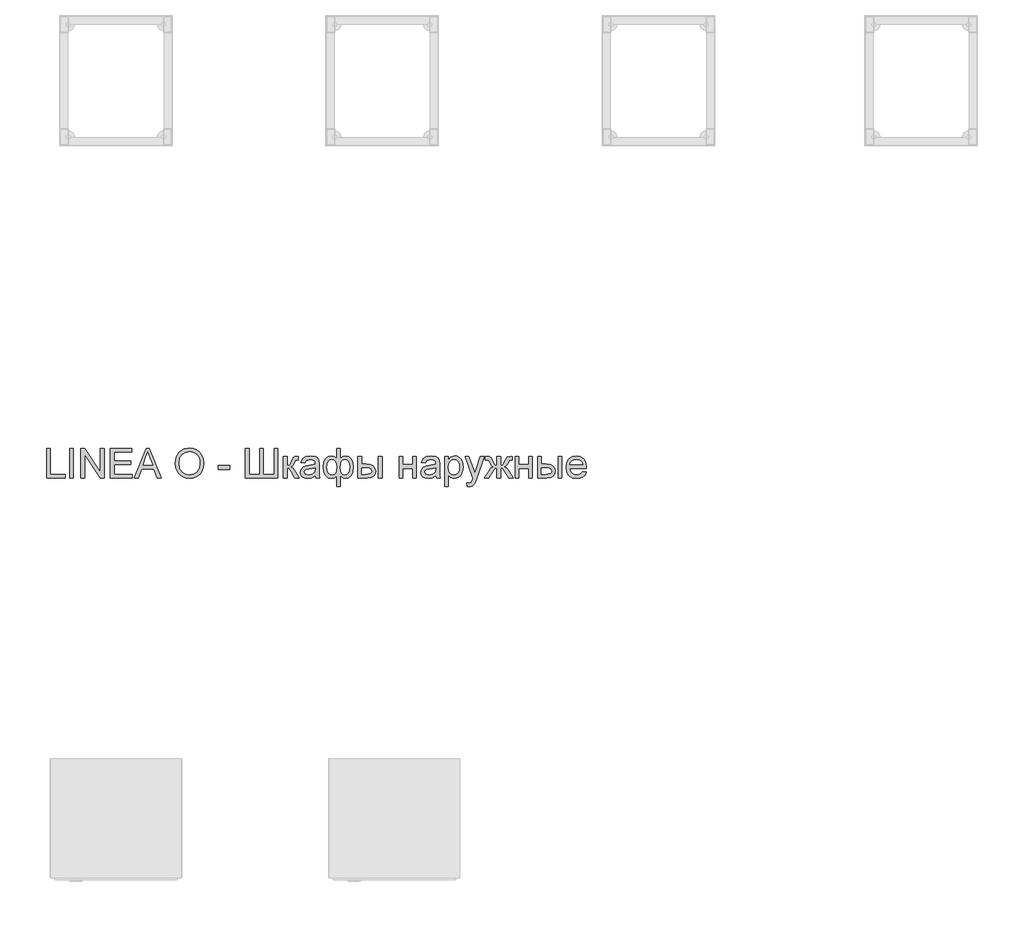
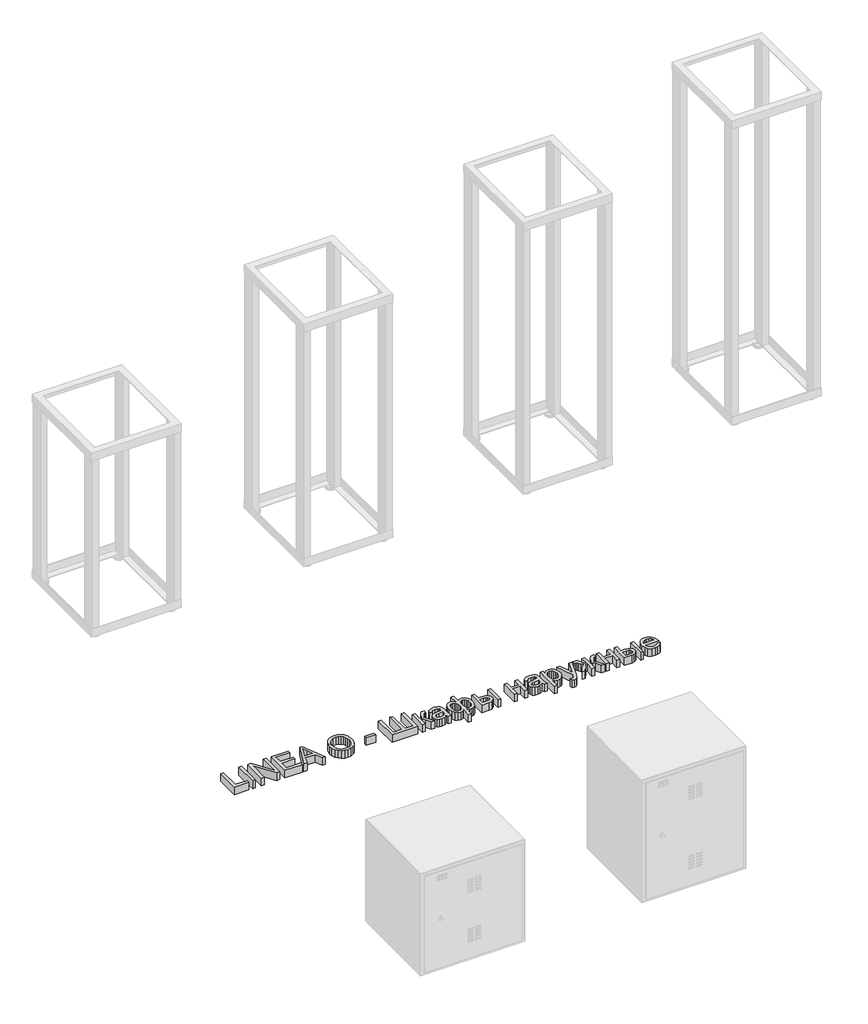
# One storey, part 5 of 9: 1 proxy.
"""IFC4 building model written with IfcOpenShell, lengths in millimetres."""

import ifcopenshell
import ifcopenshell.guid

model = None  # the IFC model being written
_history = None  # IfcOwnerHistory: only IFC2X3 demands one
_inside = {}  # id of a spatial element -> (the spatial element, [elements in it])
_under = {}  # id of a project, library or spatial element -> (it, [spatial elements below it])
_declared = {}  # id of a project -> (the project, [libraries it declares])
_typed = {}  # id of a type object -> (the type object, [elements of that type])
_made_of = {}  # id of a material, layer set ... -> (it, [elements and type objects made of it])


def new_model(schema):
    """Start an empty IFC model of exactly this schema.

    Asked for "IFC4X3", IfcOpenShell would pick the latest addendum, in which some entities
    have other attributes; the version numbers below select the first issue.
    IFC2X3 requires an IfcOwnerHistory on every rooted entity: one is made here for all.
    """
    global model, _history
    if schema == "IFC4X3":
        model = ifcopenshell.file(schema_version=(4, 3, 0, 0))
    else:
        model = ifcopenshell.file(schema=schema)
    _inside.clear()
    _under.clear()
    _declared.clear()
    _typed.clear()
    _made_of.clear()
    _history = None
    if model.schema == "IFC2X3":
        org = make("IfcOrganization", Name="unknown")
        user = make(
            "IfcPersonAndOrganization",
            ThePerson=make("IfcPerson", FamilyName="unknown"),
            TheOrganization=org,
        )
        app = make(
            "IfcApplication",
            ApplicationDeveloper=org,
            Version="unknown",
            ApplicationFullName="unknown",
            ApplicationIdentifier="unknown",
        )
        _history = make(
            "IfcOwnerHistory",
            OwningUser=user,
            OwningApplication=app,
            ChangeAction="ADDED",
            CreationDate=0,
        )
    return model


def make(cls, **values):
    """One entity of the class cls with the attributes given. An attribute that is None is left unset."""
    return model.create_entity(
        cls, **{name: value for name, value in values.items() if value is not None}
    )


def rooted(cls, **values):
    """An entity with a GlobalId (a new one), such as an element, a storey or a relation."""
    return make(cls, GlobalId=ifcopenshell.guid.new(), OwnerHistory=_history, **values)


def si_unit(unit_type, name, prefix=None):
    """IfcSIUnit, for example si_unit("LENGTHUNIT", "METRE", prefix="MILLI")."""
    return make("IfcSIUnit", UnitType=unit_type, Prefix=prefix, Name=name)


def assignment(units):
    """IfcUnitAssignment: the units of a project."""
    return None if units is None else make("IfcUnitAssignment", Units=units)


def point(xyz):
    """IfcCartesianPoint."""
    return None if xyz is None else make("IfcCartesianPoint", Coordinates=xyz)


def direction(xyz):
    """IfcDirection."""
    return None if xyz is None else make("IfcDirection", DirectionRatios=xyz)


def frame(location, z_axis=None, x_axis=None):
    """IfcAxis2Placement3D, a coordinate frame: its origin and axes. An axis left out is left unset."""
    return make(
        "IfcAxis2Placement3D",
        Location=point(location),
        Axis=direction(z_axis),
        RefDirection=direction(x_axis),
    )


def origin():
    """The frame at (0, 0, 0) with its axes left unset."""
    return frame((0.0, 0.0, 0.0))


def origin_with_axes():
    """The frame at (0, 0, 0) with the z axis (0, 0, 1) and the x axis (1, 0, 0) written out."""
    return frame((0.0, 0.0, 0.0), z_axis=(0.0, 0.0, 1.0), x_axis=(1.0, 0.0, 0.0))


def place(relative_to, where):
    """IfcLocalPlacement: puts the frame where relative to a parent placement (None: the world)."""
    return make(
        "IfcLocalPlacement", PlacementRelTo=relative_to, RelativePlacement=where
    )


def context(
    kind, dimensions, precision=None, world=None, true_north=None, identifier=None
):
    """IfcGeometricRepresentationContext, for example the 3D "Model" context."""
    return make(
        "IfcGeometricRepresentationContext",
        ContextIdentifier=identifier,
        ContextType=kind,
        CoordinateSpaceDimension=dimensions,
        Precision=precision,
        WorldCoordinateSystem=world,
        TrueNorth=true_north,
    )


def project(units=None, contexts=None):
    """IfcProject with its units and contexts."""
    return rooted(
        "IfcProject",
        Name="project",
        RepresentationContexts=contexts,
        UnitsInContext=assignment(units),
    )


def spatial(cls, under=None, at=None, **own):
    """A site, building, storey or space (cls), placed at a placement, below another one or the project."""
    s = rooted(cls, ObjectPlacement=at, **own)
    if under is not None:
        _under.setdefault(under.id(), (under, []))[1].append(s)
    return s


def polyline(points):
    """IfcPolyline through the points."""
    return make("IfcPolyline", Points=[point(p) for p in points])


def outline(outer, holes=None, kind="AREA"):
    """IfcArbitraryClosedProfileDef: a profile drawn as a closed curve; with holes, ...WithVoids."""
    if holes is None:
        return make("IfcArbitraryClosedProfileDef", ProfileType=kind, OuterCurve=outer)
    return make(
        "IfcArbitraryProfileDefWithVoids",
        ProfileType=kind,
        OuterCurve=outer,
        InnerCurves=holes,
    )


def extrude(swept, where, along, depth):
    """IfcExtrudedAreaSolid: the profile swept, set in the frame where, extruded along a direction by depth."""
    return make(
        "IfcExtrudedAreaSolid",
        SweptArea=swept,
        Position=where,
        ExtrudedDirection=direction(along),
        Depth=depth,
    )


def shape(context_of_items, identifier, shape_type, items):
    """IfcShapeRepresentation: the items that make up one representation, for example the "Body"."""
    return make(
        "IfcShapeRepresentation",
        ContextOfItems=context_of_items,
        RepresentationIdentifier=identifier,
        RepresentationType=shape_type,
        Items=items,
    )


def made_of(thing, what):
    """Note that an element or type object is made of a material, layer set ...; save() writes the relation."""
    if what is not None:
        _made_of.setdefault(what.id(), (what, []))[1].append(thing)
    return thing


def element(
    cls,
    number,
    at=None,
    inside=None,
    cuts=None,
    type_object=None,
    material=None,
    context=None,
    identifier="Body",
    shape_type=None,
    held_by="IfcProductDefinitionShape",
    body=None,
    shapes=None,
    **own,
):
    """One element of the class cls, such as IfcWall. Its Tag is "e" and its number.

    at: its placement. inside: the storey or other place that contains it. cuts: it is an
    opening in that element (IfcRelVoidsElement). A single representation is given by context,
    identifier, shape_type and body (its items); several are given by shapes. held_by: the class
    of the entity that holds the representations. save() writes the other relations.
    """
    e = rooted(cls, Tag="e%d" % number, ObjectPlacement=at, **own)
    if body is not None:
        shapes = [shape(context, identifier, shape_type, body)]
    if shapes is not None:
        e.Representation = make(held_by, Representations=shapes)
    if inside is not None:
        _inside.setdefault(inside.id(), (inside, []))[1].append(e)
    if cuts is not None:
        rooted(
            "IfcRelVoidsElement", RelatingBuildingElement=cuts, RelatedOpeningElement=e
        )
    if type_object is not None:
        _typed.setdefault(type_object.id(), (type_object, []))[1].append(e)
    return made_of(e, material)


def aggregate(whole, parts):
    """IfcRelAggregates: a whole, such as a stair, and the parts it consists of."""
    return rooted("IfcRelAggregates", RelatingObject=whole, RelatedObjects=parts)


def save(model, path):
    """Write the relations noted so far, then the file.

    IfcRelAggregates (storeys below a building ...), IfcRelContainedInSpatialStructure (elements
    in a storey), IfcRelDefinesByType, IfcRelAssociatesMaterial and IfcRelDeclares: one each for
    every whole, place, type object, material and project.
    """
    for whole, parts in _under.values():
        aggregate(whole, parts)
    for where, things in _inside.values():
        rooted(
            "IfcRelContainedInSpatialStructure",
            RelatedElements=things,
            RelatingStructure=where,
        )
    for kind, things in _typed.values():
        rooted("IfcRelDefinesByType", RelatedObjects=things, RelatingType=kind)
    for what, things in _made_of.values():
        rooted("IfcRelAssociatesMaterial", RelatedObjects=things, RelatingMaterial=what)
    for by, libraries in _declared.values():
        rooted("IfcRelDeclares", RelatingContext=by, RelatedDefinitions=libraries)
    model.write(path)


model = new_model("IFC4")

# Units and contexts
model_context = context("Model", 3, world=origin())
ifc_project = project(units=[si_unit("LENGTHUNIT", "METRE", prefix="MILLI")], contexts=[model_context])

# Site, building, storey
site = spatial("IfcSite", under=ifc_project)
building = spatial("IfcBuilding", under=site)
storey = spatial("IfcBuildingStorey", under=building, Name="Уровень 1", Elevation=0.0)

# Proxy
placement = place(None, origin())
element("IfcBuildingElementProxy", 1, Name="Надпись на модели 1", ObjectType="Надпись на модели 1", at=placement, inside=storey, context=model_context, shape_type="SweptSolid", body=[
    extrude(outline(polyline([(-45321.9839338, -21947.5177415), (-45321.9839338, -21799.8254338), (-45303.5223954, -21799.8254338), (-45303.5223954, -21929.056203), (-45229.6762415, -21929.056203), (-45229.6762415, -21947.5177415), (-45321.9839338, -21947.5177415)])), origin_with_axes(), (0.0, 0.0, 1.0), 50.0),
    extrude(outline(polyline([(-45206.5993185, -21947.5177415), (-45206.5993185, -21799.8254338), (-45188.13778, -21799.8254338), (-45188.13778, -21947.5177415), (-45206.5993185, -21947.5177415)])), origin_with_axes(), (0.0, 0.0, 1.0), 50.0),
    extrude(outline(polyline([(-45151.2147031, -21947.5177415), (-45151.2147031, -21799.8254338), (-45131.4550877, -21799.8254338), (-45054.2916262, -21916.8326453), (-45054.2916262, -21799.8254338), (-45035.8300877, -21799.8254338), (-45035.8300877, -21947.5177415), (-45055.5897031, -21947.5177415), (-45132.7531646, -21830.4744723), (-45132.7531646, -21947.5177415), (-45151.2147031, -21947.5177415)])), origin_with_axes(), (0.0, 0.0, 1.0), 50.0),
    extrude(outline(polyline([(-45003.5223954, -21947.5177415), (-45003.5223954, -21799.8254338), (-44897.3685492, -21799.8254338), (-44897.3685492, -21818.2869723), (-44985.0608569, -21818.2869723), (-44985.0608569, -21862.1331261), (-44901.9839338, -21862.1331261), (-44901.9839338, -21880.5946646), (-44985.0608569, -21880.5946646), (-44985.0608569, -21929.056203), (-44895.0608569, -21929.056203), (-44895.0608569, -21947.5177415), (-45003.5223954, -21947.5177415)])), origin_with_axes(), (0.0, 0.0, 1.0), 50.0),
    extrude(outline(polyline([(-44884.5680685, -21947.5177415), (-44825.6137415, -21799.8254338), (-44809.8925877, -21799.8254338), (-44750.9382608, -21947.5177415), (-44770.4454723, -21947.5177415), (-44787.35653, -21901.3638953), (-44848.1858569, -21901.3638953), (-44865.0608569, -21947.5177415), (-44884.5680685, -21947.5177415)]), holes=[polyline([(-44841.4070108, -21882.9023569), (-44794.0993185, -21882.9023569), (-44807.4046069, -21846.5922607), (-44817.7531646, -21818.2869723), (-44826.9478762, -21843.4191838), (-44841.4070108, -21882.9023569)])]), origin_with_axes(), (0.0, 0.0, 1.0), 50.0),
    extrude(outline(polyline([(-44680.4454723, -21875.618703), (-44675.5235973, -21842.9594482), (-44660.7579723, -21818.2509146), (-44638.2129002, -21802.7010348), (-44609.9526838, -21797.5177415), (-44590.5806887, -21799.9516357), (-44573.2098954, -21807.2533184), (-44558.7868185, -21818.9089675), (-44548.2579723, -21834.4047607), (-44541.8216742, -21852.9925011), (-44539.6762415, -21873.9239915), (-44541.9343545, -21895.134929), (-44548.7086935, -21913.9840877), (-44559.6251598, -21929.5069242), (-44574.309655, -21940.7388953), (-44591.5317103, -21947.5537992), (-44610.0608569, -21949.8254338), (-44629.7303281, -21947.314917), (-44647.20028, -21939.7833665), (-44661.5872992, -21927.9113713), (-44672.0079723, -21912.3795203), (-44678.3360973, -21894.5084266), (-44680.4454723, -21875.618703)]), holes=[polyline([(-44661.9839338, -21875.7989915), (-44658.2925276, -21898.9029578), (-44647.2183088, -21916.5081261), (-44630.5731766, -21927.649953), (-44610.16903, -21931.3638953), (-44589.4674074, -21927.6138953), (-44572.7952319, -21916.3638953), (-44561.802143, -21898.2178617), (-44558.13778, -21873.7797607), (-44559.7062896, -21857.4366117), (-44564.4118185, -21843.3110107), (-44572.1326718, -21831.7590276), (-44582.747155, -21823.1367319), (-44595.552143, -21817.7686429), (-44609.8445108, -21815.97928), (-44629.7032848, -21819.4272968), (-44646.5872992, -21829.7713473), (-44658.1347752, -21848.174292), (-44661.9839338, -21875.7989915)])]), origin_with_axes(), (0.0, 0.0, 1.0), 50.0),
    extrude(outline(polyline([(-44468.13778, -21903.6715877), (-44468.13778, -21885.2100492), (-44410.4454723, -21885.2100492), (-44410.4454723, -21903.6715877), (-44468.13778, -21903.6715877)])), origin_with_axes(), (0.0, 0.0, 1.0), 50.0),
    extrude(outline(polyline([(-44331.9839338, -21799.8254338), (-44313.5223954, -21799.8254338), (-44313.5223954, -21929.056203), (-44260.4454723, -21929.056203), (-44260.4454723, -21799.8254338), (-44241.9839338, -21799.8254338), (-44241.9839338, -21929.056203), (-44188.9070108, -21929.056203), (-44188.9070108, -21799.8254338), (-44170.4454723, -21799.8254338), (-44170.4454723, -21947.5177415), (-44331.9839338, -21947.5177415), (-44331.9839338, -21799.8254338)])), origin_with_axes(), (0.0, 0.0, 1.0), 50.0),
    extrude(outline(polyline([(-44142.7531646, -21839.056203), (-44124.2916262, -21839.056203), (-44124.2916262, -21885.2100492), (-44111.9238377, -21881.8927415), (-44101.7916262, -21862.5658184), (-44093.372155, -21845.8891357), (-44085.9442704, -21840.462453), (-44072.4406646, -21839.056203), (-44068.9070108, -21839.056203), (-44068.9070108, -21857.6259146), (-44073.8829723, -21857.5177415), (-44082.8973954, -21859.4648569), (-44089.2435492, -21871.6162992), (-44096.6894627, -21884.759328), (-44107.1281646, -21891.1956261), (-44095.48153, -21898.3801213), (-44084.0512415, -21913.5153377), (-44064.2916262, -21947.5177415), (-44085.2772031, -21947.5177415), (-44104.6401838, -21914.2364915), (-44114.3757608, -21900.1559627), (-44124.2916262, -21896.7485107), (-44124.2916262, -21947.5177415), (-44142.7531646, -21947.5177415), (-44142.7531646, -21839.056203)])), origin_with_axes(), (0.0, 0.0, 1.0), 50.0),
    extrude(outline(polyline([(-43983.5223954, -21933.6715877), (-44001.4250396, -21946.1836069), (-44021.2026838, -21949.8254338), (-44036.6308689, -21947.634929), (-44048.0115781, -21941.0634146), (-44055.0293064, -21931.0844482), (-44057.3685492, -21918.6715877), (-44053.8348954, -21904.0682223), (-44044.5500396, -21893.4672607), (-44031.6233569, -21887.4095684), (-44015.6497992, -21884.6331261), (-43983.6305685, -21878.2869723), (-43983.5223954, -21874.1763953), (-43984.793429, -21865.9372127), (-43988.60653, -21860.5465877), (-43997.1341742, -21856.5441838), (-44009.0151838, -21855.2100492), (-44027.6930685, -21858.7617319), (-44036.5993185, -21871.3638953), (-44055.0608569, -21869.056203), (-44047.0740781, -21851.0273569), (-44030.9923473, -21840.462453), (-44006.6353762, -21836.7485107), (-43984.2615781, -21840.0297607), (-43971.6233569, -21848.2689434), (-43965.9622992, -21860.7989915), (-43965.0608569, -21876.9528377), (-43965.0608569, -21899.9215877), (-43964.1233569, -21931.994905), (-43960.4454723, -21947.5177415), (-43978.9070108, -21947.5177415), (-43983.5223954, -21933.6715877)]), holes=[polyline([(-43983.5223954, -21896.7485107), (-44013.3060492, -21902.4095684), (-44029.1894627, -21905.4023569), (-44036.3829723, -21910.2701453), (-44038.9070108, -21917.3735107), (-44033.4082127, -21927.3614915), (-44017.2723954, -21931.3638953), (-43998.5945108, -21926.946828), (-43986.5512415, -21916.2557223), (-43983.6305685, -21901.9768761), (-43983.5223954, -21896.7485107)])]), origin_with_axes(), (0.0, 0.0, 1.0), 50.0),
    extrude(outline(polyline([(-43877.3685492, -21799.8254338), (-43858.9070108, -21799.8254338), (-43858.9070108, -21849.4768761), (-43847.1702319, -21839.9035588), (-43833.4142223, -21836.7485107), (-43817.2558689, -21840.759929), (-43804.8385012, -21852.7941838), (-43796.9283449, -21870.9131742), (-43794.2916262, -21893.1787992), (-43797.1311694, -21916.1250131), (-43805.6497992, -21934.1944242), (-43818.387179, -21945.9176814), (-43833.8829723, -21949.8254338), (-43845.16903, -21948.0225492), (-43858.9070108, -21938.1787992), (-43858.9070108, -21989.056203), (-43877.3685492, -21989.056203), (-43877.3685492, -21938.1787992), (-43889.1594146, -21946.9047607), (-43903.1137415, -21949.8254338), (-43918.5824915, -21946.0934627), (-43931.9598954, -21934.8975492), (-43941.2086935, -21916.7515155), (-43944.2916262, -21892.1691838), (-43941.5016622, -21870.525554), (-43933.1317704, -21852.6860107), (-43920.0473353, -21840.7328857), (-43903.1137415, -21836.7485107), (-43888.8168665, -21839.9035588), (-43877.3685492, -21849.4768761), (-43877.3685492, -21799.8254338)]), holes=[polyline([(-43859.0151838, -21893.6114915), (-43857.4782247, -21912.3028977), (-43852.8673473, -21923.665578), (-43845.9397632, -21929.439316), (-43837.4526838, -21931.3638953), (-43827.9650036, -21928.9976093), (-43819.9827319, -21921.8987511), (-43814.5605564, -21909.814917), (-43812.7531646, -21892.493703), (-43814.4208329, -21876.0694242), (-43819.4238377, -21864.4408184), (-43827.0410252, -21857.5177415), (-43836.5512415, -21855.2100492), (-43846.3454122, -21857.6123929), (-43853.372155, -21864.8194242), (-43857.6044266, -21876.8221285), (-43859.0151838, -21893.6114915)]), polyline([(-43925.8300877, -21891.7725492), (-43923.982131, -21909.8825252), (-43918.4382608, -21922.0970684), (-43910.154006, -21929.0471886), (-43900.0848954, -21931.3638953), (-43890.0653641, -21929.0607102), (-43882.9394627, -21922.151155), (-43878.6801478, -21910.6352295), (-43877.2603762, -21894.5129338), (-43878.7522632, -21877.3179218), (-43883.2279242, -21865.0357703), (-43890.7144026, -21857.6664795), (-43901.2387415, -21855.2100492), (-43911.1185492, -21857.6078857), (-43918.9791262, -21864.8013953), (-43924.1173473, -21876.3398569), (-43925.8300877, -21891.7725492)])]), origin_with_axes(), (0.0, 0.0, 1.0), 50.0),
    extrude(outline(polyline([(-43669.6762415, -21839.056203), (-43651.2147031, -21839.056203), (-43651.2147031, -21947.5177415), (-43669.6762415, -21947.5177415), (-43669.6762415, -21839.056203)])), origin_with_axes(), (0.0, 0.0, 1.0), 50.0),
    extrude(outline(polyline([(-43771.2147031, -21839.056203), (-43752.7531646, -21839.056203), (-43752.7531646, -21878.2869723), (-43729.9286454, -21878.2869723), (-43710.2005805, -21880.5991718), (-43695.5836935, -21887.5357703), (-43686.5377199, -21898.5378737), (-43683.5223954, -21913.0465877), (-43686.0509411, -21926.2572247), (-43693.6365781, -21937.4035588), (-43706.7750997, -21944.9891958), (-43725.9622992, -21947.5177415), (-43771.2147031, -21947.5177415), (-43771.2147031, -21839.056203)]), holes=[polyline([(-43752.7531646, -21929.056203), (-43733.7868185, -21929.056203), (-43709.3036454, -21925.1800011), (-43703.8138617, -21920.2175612), (-43701.9839338, -21913.0826453), (-43707.4106165, -21901.7244723), (-43716.114042, -21897.9925011), (-43731.3709531, -21896.7485107), (-43752.7531646, -21896.7485107), (-43752.7531646, -21929.056203)])]), origin_with_axes(), (0.0, 0.0, 1.0), 50.0),
    extrude(outline(polyline([(-43565.8300877, -21839.056203), (-43547.3685492, -21839.056203), (-43547.3685492, -21880.5946646), (-43498.9070108, -21880.5946646), (-43498.9070108, -21839.056203), (-43480.4454723, -21839.056203), (-43480.4454723, -21947.5177415), (-43498.9070108, -21947.5177415), (-43498.9070108, -21899.056203), (-43547.3685492, -21899.056203), (-43547.3685492, -21947.5177415), (-43565.8300877, -21947.5177415), (-43565.8300877, -21839.056203)])), origin_with_axes(), (0.0, 0.0, 1.0), 50.0),
    extrude(outline(polyline([(-43383.5223954, -21933.6715877), (-43401.4250396, -21946.1836069), (-43421.2026838, -21949.8254338), (-43436.6308689, -21947.634929), (-43448.0115781, -21941.0634146), (-43455.0293064, -21931.0844482), (-43457.3685492, -21918.6715877), (-43453.8348954, -21904.0682223), (-43444.5500396, -21893.4672607), (-43431.6233569, -21887.4095684), (-43415.6497992, -21884.6331261), (-43383.6305685, -21878.2869723), (-43383.5223954, -21874.1763953), (-43384.793429, -21865.9372127), (-43388.60653, -21860.5465877), (-43397.1341742, -21856.5441838), (-43409.0151838, -21855.2100492), (-43427.6930685, -21858.7617319), (-43436.5993185, -21871.3638953), (-43455.0608569, -21869.056203), (-43447.0740781, -21851.0273569), (-43430.9923473, -21840.462453), (-43406.6353762, -21836.7485107), (-43384.2615781, -21840.0297607), (-43371.6233569, -21848.2689434), (-43365.9622992, -21860.7989915), (-43365.0608569, -21876.9528377), (-43365.0608569, -21899.9215877), (-43364.1233569, -21931.994905), (-43360.4454723, -21947.5177415), (-43378.9070108, -21947.5177415), (-43383.5223954, -21933.6715877)]), holes=[polyline([(-43383.5223954, -21896.7485107), (-43413.3060492, -21902.4095684), (-43429.1894627, -21905.4023569), (-43436.3829723, -21910.2701453), (-43438.9070108, -21917.3735107), (-43433.4082127, -21927.3614915), (-43417.2723954, -21931.3638953), (-43398.5945108, -21926.946828), (-43386.5512415, -21916.2557223), (-43383.6305685, -21901.9768761), (-43383.5223954, -21896.7485107)])]), origin_with_axes(), (0.0, 0.0, 1.0), 50.0),
    extrude(outline(polyline([(-43339.6762415, -21989.056203), (-43339.6762415, -21839.056203), (-43321.2147031, -21839.056203), (-43321.2147031, -21857.1571646), (-43308.45028, -21841.8506742), (-43291.2147031, -21836.7485107), (-43278.7297271, -21838.5333665), (-43267.8132608, -21843.8879338), (-43258.9250396, -21852.4876934), (-43252.5247992, -21864.0081261), (-43247.3685492, -21892.4576453), (-43248.8243786, -21908.2464074), (-43253.1918665, -21922.3675011), (-43260.3312896, -21934.10428), (-43270.1029242, -21942.7400973), (-43281.4836334, -21948.0540997), (-43293.45028, -21949.8254338), (-43309.5139819, -21945.0838473), (-43321.2147031, -21933.0946646), (-43321.2147031, -21989.056203), (-43339.6762415, -21989.056203)]), holes=[polyline([(-43321.2147031, -21894.1523569), (-43319.2180084, -21910.7028377), (-43313.2279242, -21922.2773569), (-43304.3892824, -21929.0922607), (-43293.8469146, -21931.3638953), (-43283.1332728, -21929.0111309), (-43274.0692704, -21921.9528377), (-43267.8898834, -21909.9546405), (-43265.8300877, -21892.7821646), (-43267.840304, -21876.321828), (-43273.8709531, -21864.5850492), (-43282.6960733, -21857.5537992), (-43293.0897031, -21855.2100492), (-43303.5238978, -21857.7025372), (-43312.6870588, -21865.1800011), (-43319.082792, -21877.408066), (-43321.2147031, -21894.1523569)])]), origin_with_axes(), (0.0, 0.0, 1.0), 50.0),
    extrude(outline(polyline([(-43226.5993185, -21989.056203), (-43228.9070108, -21971.2797607), (-43219.5320108, -21972.9023569), (-43210.7699915, -21970.8650973), (-43205.3973954, -21965.1860107), (-43200.3493185, -21951.5922607), (-43198.9070108, -21947.1211069), (-43238.13778, -21839.056203), (-43218.6666262, -21839.056203), (-43197.8613377, -21899.2725492), (-43190.6137415, -21923.3590877), (-43183.3661454, -21902.0850492), (-43161.9839338, -21839.056203), (-43142.6570108, -21839.056203), (-43180.4094146, -21950.1138953), (-43190.2171069, -21974.2004338), (-43200.9262415, -21987.2172607), (-43215.3132608, -21991.3638953), (-43226.5993185, -21989.056203)])), origin_with_axes(), (0.0, 0.0, 1.0), 50.0),
    extrude(outline(polyline([(-43060.4454723, -21839.056203), (-43060.4454723, -21885.2100492), (-43049.6822512, -21881.4059627), (-43039.4959531, -21861.6643761), (-43027.3445108, -21842.7340877), (-43010.0728762, -21839.056203), (-43002.7531646, -21839.056203), (-43002.7531646, -21857.6259146), (-43007.8372992, -21857.5177415), (-43017.35653, -21859.4287992), (-43023.9550877, -21871.399953), (-43031.6173473, -21884.524953), (-43042.5608569, -21891.1956261), (-43030.4905444, -21898.3801213), (-43018.7267223, -21913.5153377), (-42998.13778, -21947.5177415), (-43019.3036454, -21947.5177415), (-43039.5680685, -21913.9840877), (-43049.8985973, -21900.0477896), (-43060.4454723, -21896.7485107), (-43060.4454723, -21947.5177415), (-43078.9070108, -21947.5177415), (-43078.9070108, -21896.7485107), (-43089.4178281, -21899.9756742), (-43099.8204723, -21913.9119723), (-43120.0848954, -21947.5177415), (-43141.2147031, -21947.5177415), (-43120.6978762, -21913.5153377), (-43108.8439098, -21898.3801213), (-43096.7195108, -21891.1956261), (-43108.3300877, -21883.8398569), (-43118.2820108, -21864.9095684), (-43123.1497992, -21858.6715877), (-43131.1185492, -21857.4095684), (-43136.5993185, -21857.5177415), (-43136.5993185, -21839.056203), (-43133.8228762, -21839.056203), (-43117.6329723, -21840.2100492), (-43109.23153, -21845.1138953), (-43099.8204723, -21861.6643761), (-43089.7423473, -21881.2797607), (-43078.9070108, -21885.2100492), (-43078.9070108, -21839.056203), (-43060.4454723, -21839.056203)])), origin_with_axes(), (0.0, 0.0, 1.0), 50.0),
    extrude(outline(polyline([(-42988.9070108, -21839.056203), (-42970.4454723, -21839.056203), (-42970.4454723, -21880.5946646), (-42921.9839338, -21880.5946646), (-42921.9839338, -21839.056203), (-42903.5223954, -21839.056203), (-42903.5223954, -21947.5177415), (-42921.9839338, -21947.5177415), (-42921.9839338, -21899.056203), (-42970.4454723, -21899.056203), (-42970.4454723, -21947.5177415), (-42988.9070108, -21947.5177415), (-42988.9070108, -21839.056203)])), origin_with_axes(), (0.0, 0.0, 1.0), 50.0),
    extrude(outline(polyline([(-42875.8300877, -21839.056203), (-42857.3685492, -21839.056203), (-42857.3685492, -21878.2869723), (-42834.54403, -21878.2869723), (-42814.8159651, -21880.5991718), (-42800.1990781, -21887.5357703), (-42791.1531045, -21898.5378737), (-42788.13778, -21913.0465877), (-42790.6663257, -21926.2572247), (-42798.2519627, -21937.4035588), (-42811.3904843, -21944.9891958), (-42830.5776838, -21947.5177415), (-42875.8300877, -21947.5177415), (-42875.8300877, -21839.056203)]), holes=[polyline([(-42857.3685492, -21929.056203), (-42838.4022031, -21929.056203), (-42813.91903, -21925.1800011), (-42808.4292463, -21920.2175612), (-42806.5993185, -21913.0826453), (-42812.0260012, -21901.7244723), (-42820.7294266, -21897.9925011), (-42835.9863377, -21896.7485107), (-42857.3685492, -21896.7485107), (-42857.3685492, -21929.056203)])]), origin_with_axes(), (0.0, 0.0, 1.0), 50.0),
    extrude(outline(polyline([(-42774.2916262, -21839.056203), (-42755.8300877, -21839.056203), (-42755.8300877, -21947.5177415), (-42774.2916262, -21947.5177415), (-42774.2916262, -21839.056203)])), origin_with_axes(), (0.0, 0.0, 1.0), 50.0),
    extrude(outline(polyline([(-42652.20028, -21915.2100492), (-42634.0993185, -21917.5177415), (-42640.6212536, -21931.1565636), (-42651.028405, -21941.3518761), (-42665.0863978, -21947.7070444), (-42682.5608569, -21949.8254338), (-42704.2225156, -21946.1700852), (-42720.8901838, -21935.2040396), (-42731.5181887, -21917.6394362), (-42735.0608569, -21894.1884146), (-42731.482131, -21869.9486309), (-42720.7459531, -21851.8206261), (-42704.3036454, -21840.5165396), (-42683.60653, -21836.7485107), (-42663.5539459, -21840.5075252), (-42647.5308088, -21851.7845684), (-42637.0244988, -21869.8765155), (-42633.5223954, -21894.0802415), (-42633.6305685, -21899.056203), (-42716.5993185, -21899.056203), (-42713.4037055, -21912.8753136), (-42705.9803281, -21923.0345684), (-42695.2666863, -21929.2815636), (-42682.20028, -21931.3638953), (-42664.0993185, -21927.5057223), (-42652.20028, -21915.2100492)]), holes=[polyline([(-42716.5993185, -21880.5946646), (-42651.9839338, -21880.5946646), (-42654.480929, -21870.8410588), (-42659.3757608, -21863.8638953), (-42670.1389819, -21857.3735107), (-42683.6786454, -21855.2100492), (-42696.1230564, -21856.9363112), (-42706.4130204, -21862.1150973), (-42713.5659651, -21870.1875131), (-42716.5993185, -21880.5946646)])]), origin_with_axes(), (0.0, 0.0, 1.0), 50.0),
])

save(model, "model.ifc")
